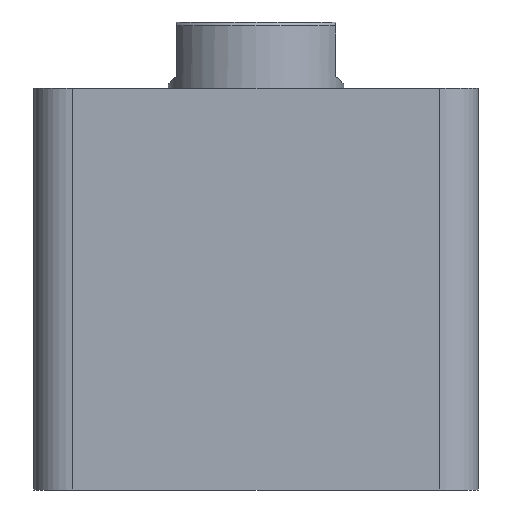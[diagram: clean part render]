
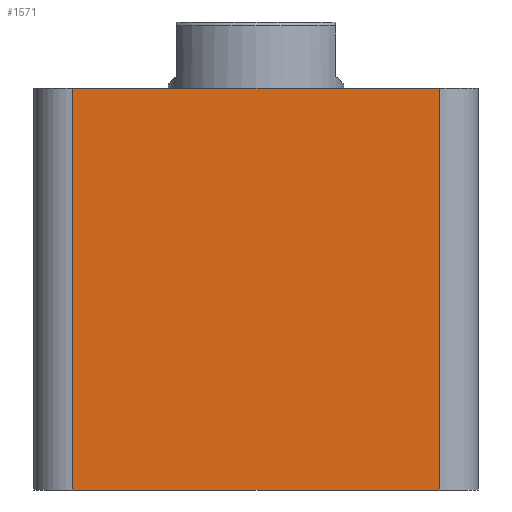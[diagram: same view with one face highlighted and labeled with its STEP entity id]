
A CAD part, front view. The second image highlights one B-rep face of the part: STEP entity #1571.
In plain terms, the highlighted planar face has unit normal (0, -1, 0).
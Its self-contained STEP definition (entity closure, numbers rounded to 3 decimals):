
#124 = EDGE_LOOP ( 'NONE', ( #1034, #1016, #1046, #1047 ) ) ;
#421 = DIRECTION ( 'NONE',  ( 0., 0., 1. ) ) ;
#558 = CARTESIAN_POINT ( 'NONE',  ( -47., -57., 103. ) ) ;
#565 = CARTESIAN_POINT ( 'NONE',  ( 47., -57., 0. ) ) ;
#572 = CARTESIAN_POINT ( 'NONE',  ( -47., -57., 0. ) ) ;
#598 = CARTESIAN_POINT ( 'NONE',  ( 47., -57., 103. ) ) ;
#1016 = ORIENTED_EDGE ( 'NONE', *, *, #1833, .T. ) ;
#1034 = ORIENTED_EDGE ( 'NONE', *, *, #1832, .T. ) ;
#1046 = ORIENTED_EDGE ( 'NONE', *, *, #1834, .F. ) ;
#1047 = ORIENTED_EDGE ( 'NONE', *, *, #1835, .T. ) ;
#1099 = FACE_OUTER_BOUND ( 'NONE', #124, .T. ) ;
#1178 = AXIS2_PLACEMENT_3D ( 'NONE', #1556, #1560, #421 ) ;
#1556 = CARTESIAN_POINT ( 'NONE',  ( -57., -57., 103. ) ) ;
#1559 = PLANE ( 'NONE',  #1178 ) ;
#1560 = DIRECTION ( 'NONE',  ( 0., 1., 0. ) ) ;
#1571 = ADVANCED_FACE ( 'NONE', ( #1099 ), #1559, .F. ) ;
#1698 = CARTESIAN_POINT ( 'NONE',  ( 47., -57., 103. ) ) ;
#1708 = CARTESIAN_POINT ( 'NONE',  ( -57., -57., 0. ) ) ;
#1709 = DIRECTION ( 'NONE',  ( 1., 0., 0. ) ) ;
#1710 = DIRECTION ( 'NONE',  ( 0., 0., 1. ) ) ;
#1711 = CARTESIAN_POINT ( 'NONE',  ( -57., -57., 103. ) ) ;
#1712 = DIRECTION ( 'NONE',  ( 1., 0., 0. ) ) ;
#1713 = CARTESIAN_POINT ( 'NONE',  ( -47., -57., 103. ) ) ;
#1714 = DIRECTION ( 'NONE',  ( 0., 0., -1. ) ) ;
#1832 = EDGE_CURVE ( 'NONE', #2496, #2487, #2176, .T. ) ;
#1833 = EDGE_CURVE ( 'NONE', #2487, #2641, #2170, .T. ) ;
#1834 = EDGE_CURVE ( 'NONE', #2458, #2641, #2180, .T. ) ;
#1835 = EDGE_CURVE ( 'NONE', #2458, #2496, #2182, .T. ) ;
#2170 = LINE ( 'NONE', #1698, #2181 ) ;
#2176 = LINE ( 'NONE', #1708, #2179 ) ;
#2179 = VECTOR ( 'NONE', #1709, 1000. ) ;
#2180 = LINE ( 'NONE', #1711, #2183 ) ;
#2181 = VECTOR ( 'NONE', #1710, 1000. ) ;
#2182 = LINE ( 'NONE', #1713, #2185 ) ;
#2183 = VECTOR ( 'NONE', #1712, 1000. ) ;
#2185 = VECTOR ( 'NONE', #1714, 1000. ) ;
#2458 = VERTEX_POINT ( 'NONE', #558 ) ;
#2487 = VERTEX_POINT ( 'NONE', #565 ) ;
#2496 = VERTEX_POINT ( 'NONE', #572 ) ;
#2641 = VERTEX_POINT ( 'NONE', #598 ) ;
